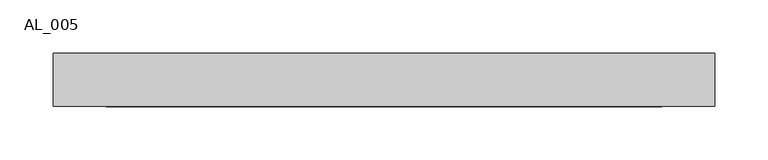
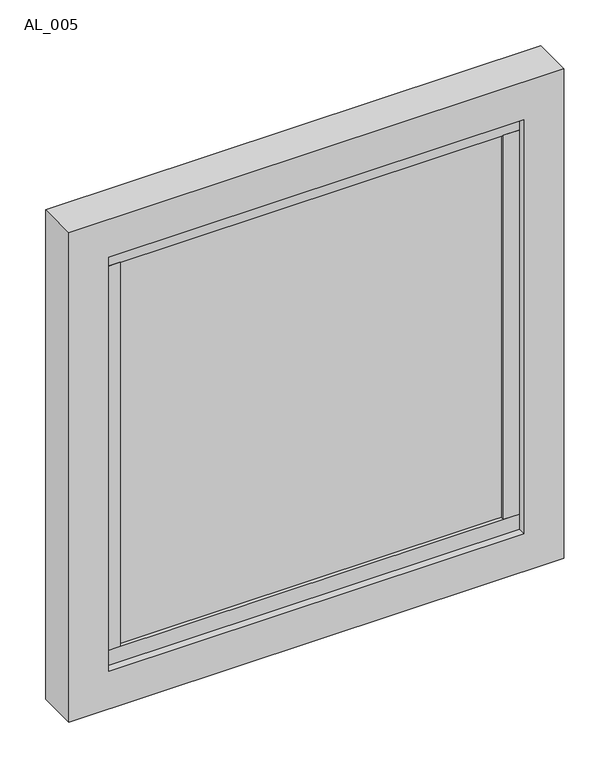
"""IFC4 building model written with IfcOpenShell, lengths in millimetres: plate geometry, TRP_CP_ARC_PF_RE : AL_005."""

from ifc_helpers import new_model, si_unit, frame, origin, place, context, project, spatial, polyline, outline, extrude, source, transform, mapped, element, save


def al_005_6a2d727c(model_context):
    return source(origin(), model_context, "Body", "SweptSolid", [
        extrude(outline(polyline([(240.8268048, -10.0), (-240.8268048, -10.0), (-240.8268048, 10.0), (240.8268048, 10.0), (240.8268048, -10.0)])), frame((0.0, 0.0, 70.0), z_axis=(0.0, 0.0, 1.0), x_axis=(1.0, 0.0, 0.0)), (0.0, 0.0, 1.0), 509.970898),
        extrude(outline(polyline([(260.8268048, -15.0), (240.8268048, -15.0), (240.8268048, 15.0), (260.8268048, 15.0), (260.8268048, -15.0)])), frame((0.0, 0.0, 70.0), z_axis=(0.0, 0.0, 1.0), x_axis=(1.0, 0.0, 0.0)), (0.0, 0.0, 1.0), 509.970898),
        extrude(outline(polyline([(-240.8268048, -15.0), (-260.8268048, -15.0), (-260.8268048, 15.0), (-240.8268048, 15.0), (-240.8268048, -15.0)])), frame((0.0, 0.0, 70.0), z_axis=(0.0, 0.0, 1.0), x_axis=(1.0, 0.0, 0.0)), (0.0, 0.0, 1.0), 509.970898),
        extrude(outline(polyline([(260.8268048, -15.0), (-260.8268048, -15.0), (-260.8268048, 15.0), (260.8268048, 15.0), (260.8268048, -15.0)])), frame((0.0, 0.0, 50.0), z_axis=(0.0, 0.0, 1.0), x_axis=(1.0, 0.0, 0.0)), (0.0, 0.0, 1.0), 20.0),
        extrude(outline(polyline([(260.8268048, -15.0), (-260.8268048, -15.0), (-260.8268048, 15.0), (260.8268048, 15.0), (260.8268048, -15.0)])), frame((0.0, 0.0, 579.970898), z_axis=(0.0, 0.0, 1.0), x_axis=(1.0, 0.0, 0.0)), (0.0, 0.0, 1.0), 20.0),
        extrude(outline(polyline([(649.970898, 310.8268048), (649.970898, -310.8268048), (0.0, -310.8268048), (0.0, 310.8268048), (649.970898, 310.8268048)]), holes=[polyline([(50.0, 260.8268048), (50.0, -260.8268048), (599.970898, -260.8268048), (599.970898, 260.8268048), (50.0, 260.8268048)])]), frame((0.0, -25.0, 0.0), z_axis=(0.0, 1.0, 0.0), x_axis=(0.0, 0.0, 1.0)), (0.0, 0.0, 1.0), 50.0),
    ])


if __name__ == "__main__":
    model = new_model("IFC4")
    model_context = context("Model", 3, world=origin())
    ifc_project = project(units=[si_unit("LENGTHUNIT", "METRE", prefix="MILLI")], contexts=[model_context])
    site = spatial("IfcSite", under=ifc_project)
    building = spatial("IfcBuilding", under=site)
    placement = place(None, origin())
    al_005_shape = al_005_6a2d727c(model_context)
    element("IfcPlate", 1, ObjectType="TRP_CP_ARC_PF_RE : AL_005", at=placement, inside=building, context=model_context, shape_type="MappedRepresentation", body=[
        mapped(al_005_shape, transform((0.0, 0.0, 0.0), x_axis=(1.0, 0.0, 0.0), y_axis=(0.0, 1.0, 0.0), z_axis=(0.0, 0.0, 1.0))),
    ])
    save(model, "model.ifc")
